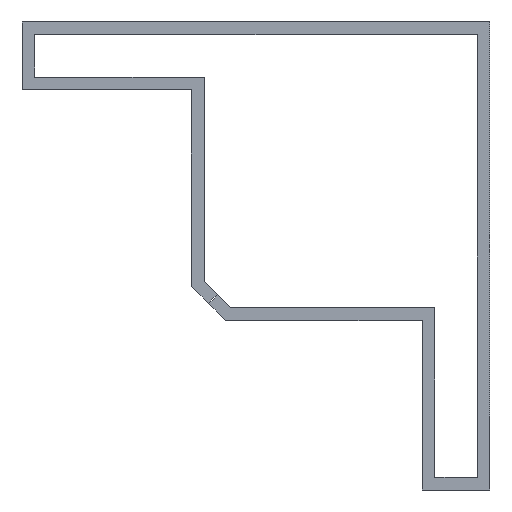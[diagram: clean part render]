
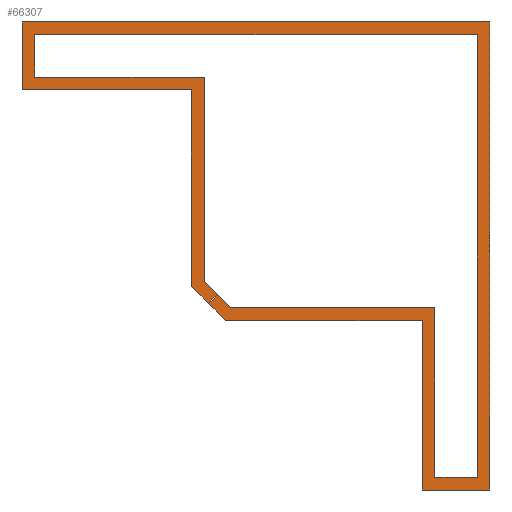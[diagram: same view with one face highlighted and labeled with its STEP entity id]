
A CAD part, front view. The second image highlights one B-rep face of the part: STEP entity #66307.
In plain terms, the highlighted planar face has unit normal (0, -1, 0).
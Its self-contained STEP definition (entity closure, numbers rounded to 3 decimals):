
#21 = EDGE_CURVE('',#22,#24,#26,.T.);
#22 = VERTEX_POINT('',#23);
#23 = CARTESIAN_POINT('',(-102.948,-528.411,73.691
    ));
#24 = VERTEX_POINT('',#25);
#25 = CARTESIAN_POINT('',(-103.903,-528.411,
    72.737));
#26 = LINE('',#27,#28);
#27 = CARTESIAN_POINT('',(-103.903,-528.411,
    72.737));
#28 = VECTOR('',#29,1.);
#29 = DIRECTION('',(-0.707,0.,-0.707));
#61 = EDGE_CURVE('',#62,#64,#66,.T.);
#62 = VERTEX_POINT('',#63);
#63 = CARTESIAN_POINT('',(-103.868,-528.411,
    72.701));
#64 = VERTEX_POINT('',#65);
#65 = CARTESIAN_POINT('',(-102.913,-528.411,
    73.656));
#66 = LINE('',#67,#68);
#67 = CARTESIAN_POINT('',(-103.868,-528.411,
    72.701));
#68 = VECTOR('',#69,1.);
#69 = DIRECTION('',(0.707,0.,0.707));
#8219 = EDGE_CURVE('',#8220,#8222,#8224,.T.);
#8220 = VERTEX_POINT('',#8221);
#8221 = CARTESIAN_POINT('',(-75.345,-528.411,
    54.259));
#8222 = VERTEX_POINT('',#8223);
#8223 = CARTESIAN_POINT('',(-79.845,-528.411,
    54.259));
#8224 = LINE('',#8225,#8226);
#8225 = CARTESIAN_POINT('',(-79.845,-528.411,
    54.259));
#8226 = VECTOR('',#8227,1.);
#8227 = DIRECTION('',(-1.,0.,0.));
#22215 = EDGE_CURVE('',#22216,#8220,#22218,.T.);
#22216 = VERTEX_POINT('',#22217);
#22217 = CARTESIAN_POINT('',(-75.345,-528.411,
    101.259));
#22218 = LINE('',#22219,#22220);
#22219 = CARTESIAN_POINT('',(-75.345,-528.411,
    54.259));
#22220 = VECTOR('',#22221,1.);
#22221 = DIRECTION('',(0.,0.,-1.));
#36193 = EDGE_CURVE('',#36194,#22216,#36196,.T.);
#36194 = VERTEX_POINT('',#36195);
#36195 = CARTESIAN_POINT('',(-122.345,-528.411,
    101.259));
#36196 = LINE('',#36197,#36198);
#36197 = CARTESIAN_POINT('',(-75.345,-528.411,
    101.259));
#36198 = VECTOR('',#36199,1.);
#36199 = DIRECTION('',(1.,0.,0.));
#36224 = EDGE_CURVE('',#36225,#36194,#36227,.T.);
#36225 = VERTEX_POINT('',#36226);
#36226 = CARTESIAN_POINT('',(-122.345,-528.411,
    96.759));
#36227 = LINE('',#36228,#36229);
#36228 = CARTESIAN_POINT('',(-122.345,-528.411,
    101.259));
#36229 = VECTOR('',#36230,1.);
#36230 = DIRECTION('',(0.,0.,1.));
#36295 = EDGE_CURVE('',#36296,#36225,#36298,.T.);
#36296 = VERTEX_POINT('',#36297);
#36297 = CARTESIAN_POINT('',(-104.345,-528.411,
    96.759));
#36298 = LINE('',#36299,#36300);
#36299 = CARTESIAN_POINT('',(-122.345,-528.411,
    96.759));
#36300 = VECTOR('',#36301,1.);
#36301 = DIRECTION('',(-1.,0.,0.));
#36337 = EDGE_CURVE('',#36338,#36296,#36340,.T.);
#36338 = VERTEX_POINT('',#36339);
#36339 = CARTESIAN_POINT('',(-104.345,-528.411,
    75.088));
#36340 = LINE('',#36341,#36342);
#36341 = CARTESIAN_POINT('',(-104.345,-528.411,
    96.759));
#36342 = VECTOR('',#36343,1.);
#36343 = DIRECTION('',(0.,0.,1.));
#36369 = EDGE_CURVE('',#36370,#64,#36372,.T.);
#36370 = VERTEX_POINT('',#36371);
#36371 = CARTESIAN_POINT('',(-101.516,-528.411,
    72.259));
#36372 = LINE('',#36373,#36374);
#36373 = CARTESIAN_POINT('',(-104.345,-528.411,
    75.088));
#36374 = VECTOR('',#36375,1.);
#36375 = DIRECTION('',(-0.707,0.,0.707));
#36428 = EDGE_CURVE('',#36429,#36370,#36431,.T.);
#36429 = VERTEX_POINT('',#36430);
#36430 = CARTESIAN_POINT('',(-79.845,-528.411,
    72.259));
#36431 = LINE('',#36432,#36433);
#36432 = CARTESIAN_POINT('',(-101.516,-528.411,
    72.259));
#36433 = VECTOR('',#36434,1.);
#36434 = DIRECTION('',(-1.,0.,0.));
#36490 = EDGE_CURVE('',#8222,#36429,#36491,.T.);
#36491 = LINE('',#36492,#36493);
#36492 = CARTESIAN_POINT('',(-79.845,-528.411,
    72.259));
#36493 = VECTOR('',#36494,1.);
#36494 = DIRECTION('',(0.,0.,1.));
#50459 = EDGE_CURVE('',#50460,#50462,#50464,.T.);
#50460 = VERTEX_POINT('',#50461);
#50461 = CARTESIAN_POINT('',(-73.995,-528.411,
    102.609));
#50462 = VERTEX_POINT('',#50463);
#50463 = CARTESIAN_POINT('',(-73.995,-528.411,
    52.909));
#50464 = LINE('',#50465,#50466);
#50465 = CARTESIAN_POINT('',(-73.995,-528.411,
    52.909));
#50466 = VECTOR('',#50467,1.);
#50467 = DIRECTION('',(0.,0.,-1.));
#64455 = VERTEX_POINT('',#64456);
#64456 = CARTESIAN_POINT('',(-123.695,-528.411,
    102.609));
#64462 = EDGE_CURVE('',#64455,#50460,#64463,.T.);
#64463 = LINE('',#64464,#64465);
#64464 = CARTESIAN_POINT('',(-73.995,-528.411,
    102.609));
#64465 = VECTOR('',#64466,1.);
#64466 = DIRECTION('',(1.,0.,0.));
#64486 = VERTEX_POINT('',#64487);
#64487 = CARTESIAN_POINT('',(-123.695,-528.411,
    95.409));
#64493 = EDGE_CURVE('',#64486,#64455,#64494,.T.);
#64494 = LINE('',#64495,#64496);
#64495 = CARTESIAN_POINT('',(-123.695,-528.411,
    102.609));
#64496 = VECTOR('',#64497,1.);
#64497 = DIRECTION('',(0.,0.,1.));
#64557 = VERTEX_POINT('',#64558);
#64558 = CARTESIAN_POINT('',(-105.695,-528.411,
    95.409));
#64564 = EDGE_CURVE('',#64557,#64486,#64565,.T.);
#64565 = LINE('',#64566,#64567);
#64566 = CARTESIAN_POINT('',(-123.695,-528.411,
    95.409));
#64567 = VECTOR('',#64568,1.);
#64568 = DIRECTION('',(-1.,0.,0.));
#64599 = EDGE_CURVE('',#64600,#64557,#64602,.T.);
#64600 = VERTEX_POINT('',#64601);
#64601 = CARTESIAN_POINT('',(-105.695,-528.411,
    74.529));
#64602 = LINE('',#64603,#64604);
#64603 = CARTESIAN_POINT('',(-105.695,-528.411,
    95.409));
#64604 = VECTOR('',#64605,1.);
#64605 = DIRECTION('',(0.,0.,1.));
#64630 = EDGE_CURVE('',#64631,#62,#64633,.T.);
#64631 = VERTEX_POINT('',#64632);
#64632 = CARTESIAN_POINT('',(-102.076,-528.411,
    70.909));
#64633 = LINE('',#64634,#64635);
#64634 = CARTESIAN_POINT('',(-105.695,-528.411,
    74.529));
#64635 = VECTOR('',#64636,1.);
#64636 = DIRECTION('',(-0.707,0.,0.707));
#66187 = EDGE_CURVE('',#66188,#64631,#66190,.T.);
#66188 = VERTEX_POINT('',#66189);
#66189 = CARTESIAN_POINT('',(-81.195,-528.411,
    70.909));
#66190 = LINE('',#66191,#66192);
#66191 = CARTESIAN_POINT('',(-102.076,-528.411,
    70.909));
#66192 = VECTOR('',#66193,1.);
#66193 = DIRECTION('',(-1.,0.,0.));
#66258 = EDGE_CURVE('',#66259,#66188,#66261,.T.);
#66259 = VERTEX_POINT('',#66260);
#66260 = CARTESIAN_POINT('',(-81.195,-528.411,
    52.909));
#66261 = LINE('',#66262,#66263);
#66262 = CARTESIAN_POINT('',(-81.195,-528.411,
    70.909));
#66263 = VECTOR('',#66264,1.);
#66264 = DIRECTION('',(0.,0.,1.));
#66296 = EDGE_CURVE('',#50462,#66259,#66297,.T.);
#66297 = LINE('',#66298,#66299);
#66298 = CARTESIAN_POINT('',(-81.195,-528.411,
    52.909));
#66299 = VECTOR('',#66300,1.);
#66300 = DIRECTION('',(-1.,0.,0.));
#66307 = ADVANCED_FACE('',(#66308),#66342,.T.);
#66308 = FACE_BOUND('',#66309,.T.);
#66309 = EDGE_LOOP('',(#66310,#66311,#66317,#66318,#66319,#66320,#66321,
    #66322,#66323,#66324,#66325,#66326,#66327,#66328,#66329,#66330,
    #66331,#66332,#66333,#66334,#66335,#66336));
#66310 = ORIENTED_EDGE('',*,*,#21,.F.);
#66311 = ORIENTED_EDGE('',*,*,#66312,.T.);
#66312 = EDGE_CURVE('',#22,#36338,#66313,.T.);
#66313 = LINE('',#66314,#66315);
#66314 = CARTESIAN_POINT('',(-104.345,-528.411,
    75.088));
#66315 = VECTOR('',#66316,1.);
#66316 = DIRECTION('',(-0.707,0.,0.707));
#66317 = ORIENTED_EDGE('',*,*,#36337,.T.);
#66318 = ORIENTED_EDGE('',*,*,#36295,.T.);
#66319 = ORIENTED_EDGE('',*,*,#36224,.T.);
#66320 = ORIENTED_EDGE('',*,*,#36193,.T.);
#66321 = ORIENTED_EDGE('',*,*,#22215,.T.);
#66322 = ORIENTED_EDGE('',*,*,#8219,.T.);
#66323 = ORIENTED_EDGE('',*,*,#36490,.T.);
#66324 = ORIENTED_EDGE('',*,*,#36428,.T.);
#66325 = ORIENTED_EDGE('',*,*,#36369,.T.);
#66326 = ORIENTED_EDGE('',*,*,#61,.F.);
#66327 = ORIENTED_EDGE('',*,*,#64630,.F.);
#66328 = ORIENTED_EDGE('',*,*,#66187,.F.);
#66329 = ORIENTED_EDGE('',*,*,#66258,.F.);
#66330 = ORIENTED_EDGE('',*,*,#66296,.F.);
#66331 = ORIENTED_EDGE('',*,*,#50459,.F.);
#66332 = ORIENTED_EDGE('',*,*,#64462,.F.);
#66333 = ORIENTED_EDGE('',*,*,#64493,.F.);
#66334 = ORIENTED_EDGE('',*,*,#64564,.F.);
#66335 = ORIENTED_EDGE('',*,*,#64599,.F.);
#66336 = ORIENTED_EDGE('',*,*,#66337,.F.);
#66337 = EDGE_CURVE('',#24,#64600,#66338,.T.);
#66338 = LINE('',#66339,#66340);
#66339 = CARTESIAN_POINT('',(-105.695,-528.411,
    74.529));
#66340 = VECTOR('',#66341,1.);
#66341 = DIRECTION('',(-0.707,0.,0.707));
#66342 = PLANE('',#66343);
#66343 = AXIS2_PLACEMENT_3D('',#66344,#66345,#66346);
#66344 = CARTESIAN_POINT('',(-73.995,-528.411,
    52.909));
#66345 = DIRECTION('',(0.,-1.,0.));
#66346 = DIRECTION('',(0.,0.,-1.));
